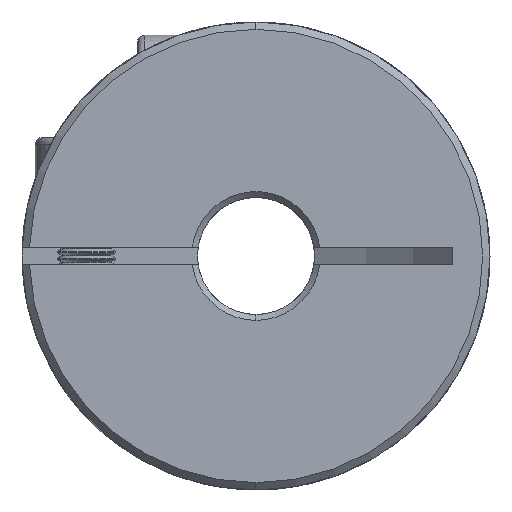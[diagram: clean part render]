
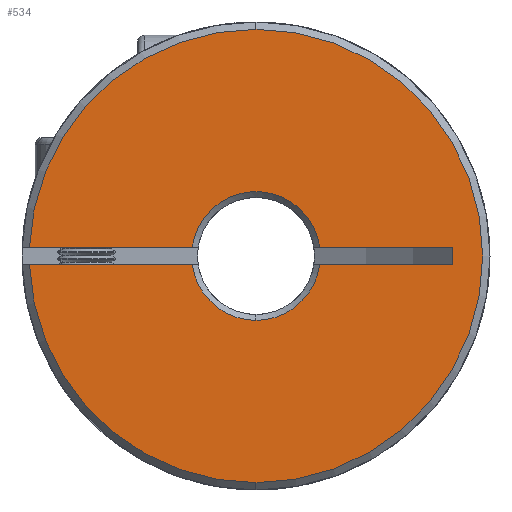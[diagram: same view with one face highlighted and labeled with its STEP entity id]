
A CAD part, front view. The second image highlights one B-rep face of the part: STEP entity #534.
In plain terms, the highlighted planar face has unit normal (0, -1, 0).
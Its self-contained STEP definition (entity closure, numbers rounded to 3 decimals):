
#71 = VERTEX_POINT ( 'NONE', #6212 ) ;
#272 = DIRECTION ( 'NONE',  ( 0., 1., 0. ) ) ;
#280 = VERTEX_POINT ( 'NONE', #2039 ) ;
#534 = ADVANCED_FACE ( 'NONE', ( #1481 ), #3240, .F. ) ;
#796 = EDGE_CURVE ( 'NONE', #10008, #8554, #7718, .T. ) ;
#824 = CARTESIAN_POINT ( 'NONE',  ( -50., 0., 0.6 ) ) ;
#926 = VERTEX_POINT ( 'NONE', #4681 ) ;
#1137 = LINE ( 'NONE', #3846, #9394 ) ;
#1174 = DIRECTION ( 'NONE',  ( 0., 1., 0. ) ) ;
#1200 = DIRECTION ( 'NONE',  ( 0., 0., 1. ) ) ;
#1307 = CARTESIAN_POINT ( 'NONE',  ( 0., 0., 0. ) ) ;
#1458 = VECTOR ( 'NONE', #6246, 1000. ) ;
#1478 = ORIENTED_EDGE ( 'NONE', *, *, #5255, .T. ) ;
#1481 = FACE_OUTER_BOUND ( 'NONE', #2538, .T. ) ;
#1548 = ORIENTED_EDGE ( 'NONE', *, *, #9373, .T. ) ;
#1741 = CARTESIAN_POINT ( 'NONE',  ( -15.488, 0., 0.6 ) ) ;
#1918 = DIRECTION ( 'NONE',  ( 0., 1., 0. ) ) ;
#1942 = EDGE_CURVE ( 'NONE', #8324, #10008, #8642, .T. ) ;
#2003 = CARTESIAN_POINT ( 'NONE',  ( 0., 0., 0. ) ) ;
#2036 = CARTESIAN_POINT ( 'NONE',  ( 0., 0., 0. ) ) ;
#2039 = CARTESIAN_POINT ( 'NONE',  ( -4.359, 0., -0.6 ) ) ;
#2052 = ORIENTED_EDGE ( 'NONE', *, *, #3862, .F. ) ;
#2391 = ORIENTED_EDGE ( 'NONE', *, *, #2551, .T. ) ;
#2473 = ORIENTED_EDGE ( 'NONE', *, *, #4414, .T. ) ;
#2538 = EDGE_LOOP ( 'NONE', ( #9291, #4733, #8670, #1478, #5568, #6289, #1548, #2473, #2052, #2391, #10294 ) ) ;
#2551 = EDGE_CURVE ( 'NONE', #926, #3586, #5659, .T. ) ;
#2631 = CARTESIAN_POINT ( 'NONE',  ( 0., 0., 0. ) ) ;
#2725 = CARTESIAN_POINT ( 'NONE',  ( -50., 0., 0.6 ) ) ;
#2984 = CARTESIAN_POINT ( 'NONE',  ( 13.436, 0., 0.6 ) ) ;
#3052 = DIRECTION ( 'NONE',  ( 0., -1., 0. ) ) ;
#3240 = PLANE ( 'NONE',  #6657 ) ;
#3586 = VERTEX_POINT ( 'NONE', #5062 ) ;
#3606 = CARTESIAN_POINT ( 'NONE',  ( 0., 0., 0. ) ) ;
#3715 = VECTOR ( 'NONE', #9503, 1000. ) ;
#3781 = CARTESIAN_POINT ( 'NONE',  ( 0., 0., 0. ) ) ;
#3798 = AXIS2_PLACEMENT_3D ( 'NONE', #2036, #8213, #1200 ) ;
#3846 = CARTESIAN_POINT ( 'NONE',  ( -50., 0., -0.6 ) ) ;
#3862 = EDGE_CURVE ( 'NONE', #926, #4159, #1137, .T. ) ;
#3889 = VECTOR ( 'NONE', #4334, 1000. ) ;
#4092 = CARTESIAN_POINT ( 'NONE',  ( -50., 0., -0.6 ) ) ;
#4159 = VERTEX_POINT ( 'NONE', #5638 ) ;
#4208 = AXIS2_PLACEMENT_3D ( 'NONE', #2003, #272, #7120 ) ;
#4233 = DIRECTION ( 'NONE',  ( 0., 1., 0. ) ) ;
#4334 = DIRECTION ( 'NONE',  ( 1., 0., 0. ) ) ;
#4414 = EDGE_CURVE ( 'NONE', #10462, #4159, #5097, .T. ) ;
#4681 = CARTESIAN_POINT ( 'NONE',  ( 4.359, 0., -0.6 ) ) ;
#4733 = ORIENTED_EDGE ( 'NONE', *, *, #8781, .T. ) ;
#4766 = CARTESIAN_POINT ( 'NONE',  ( 4.359, 0., 0.6 ) ) ;
#4781 = CARTESIAN_POINT ( 'NONE',  ( -4.359, 0., 0.6 ) ) ;
#4796 = CIRCLE ( 'NONE', #3798, 15.5 ) ;
#5062 = CARTESIAN_POINT ( 'NONE',  ( 0., 0., -4.4 ) ) ;
#5069 = CARTESIAN_POINT ( 'NONE',  ( -50., 0., -18.413 ) ) ;
#5097 = LINE ( 'NONE', #6841, #3715 ) ;
#5147 = DIRECTION ( 'NONE',  ( 0., 0., 1. ) ) ;
#5255 = EDGE_CURVE ( 'NONE', #71, #8324, #4796, .T. ) ;
#5530 = CIRCLE ( 'NONE', #4208, 4.4 ) ;
#5568 = ORIENTED_EDGE ( 'NONE', *, *, #1942, .T. ) ;
#5638 = CARTESIAN_POINT ( 'NONE',  ( 13.436, 0., -0.6 ) ) ;
#5659 = CIRCLE ( 'NONE', #10078, 4.4 ) ;
#5721 = DIRECTION ( 'NONE',  ( 1., 0., 0. ) ) ;
#5742 = DIRECTION ( 'NONE',  ( 1., 0., 0. ) ) ;
#5990 = CARTESIAN_POINT ( 'NONE',  ( -15.488, 0., -0.6 ) ) ;
#6120 = AXIS2_PLACEMENT_3D ( 'NONE', #1307, #3052, #8203 ) ;
#6212 = CARTESIAN_POINT ( 'NONE',  ( 0., 0., 15.5 ) ) ;
#6246 = DIRECTION ( 'NONE',  ( 1., 0., 0. ) ) ;
#6289 = ORIENTED_EDGE ( 'NONE', *, *, #796, .T. ) ;
#6447 = DIRECTION ( 'NONE',  ( 0., 0., 1. ) ) ;
#6657 = AXIS2_PLACEMENT_3D ( 'NONE', #5069, #4233, #5147 ) ;
#6841 = CARTESIAN_POINT ( 'NONE',  ( 13.436, 0., -0.6 ) ) ;
#7120 = DIRECTION ( 'NONE',  ( 0., 0., 1. ) ) ;
#7143 = DIRECTION ( 'NONE',  ( 0., 0., 1. ) ) ;
#7718 = CIRCLE ( 'NONE', #9487, 4.4 ) ;
#7972 = AXIS2_PLACEMENT_3D ( 'NONE', #2631, #10625, #8710 ) ;
#8127 = VECTOR ( 'NONE', #5742, 1000. ) ;
#8145 = EDGE_CURVE ( 'NONE', #9212, #280, #10417, .T. ) ;
#8203 = DIRECTION ( 'NONE',  ( 0., 0., 1. ) ) ;
#8213 = DIRECTION ( 'NONE',  ( 0., -1., 0. ) ) ;
#8236 = CIRCLE ( 'NONE', #6120, 15.5 ) ;
#8324 = VERTEX_POINT ( 'NONE', #1741 ) ;
#8421 = VERTEX_POINT ( 'NONE', #9679 ) ;
#8554 = VERTEX_POINT ( 'NONE', #4766 ) ;
#8642 = LINE ( 'NONE', #824, #3889 ) ;
#8670 = ORIENTED_EDGE ( 'NONE', *, *, #10799, .T. ) ;
#8710 = DIRECTION ( 'NONE',  ( 0., 0., 1. ) ) ;
#8781 = EDGE_CURVE ( 'NONE', #9212, #8421, #9993, .T. ) ;
#9212 = VERTEX_POINT ( 'NONE', #5990 ) ;
#9291 = ORIENTED_EDGE ( 'NONE', *, *, #8145, .F. ) ;
#9373 = EDGE_CURVE ( 'NONE', #8554, #10462, #9445, .T. ) ;
#9394 = VECTOR ( 'NONE', #5721, 1000. ) ;
#9445 = LINE ( 'NONE', #2725, #1458 ) ;
#9487 = AXIS2_PLACEMENT_3D ( 'NONE', #3606, #1918, #7143 ) ;
#9503 = DIRECTION ( 'NONE',  ( 0., 0., -1. ) ) ;
#9679 = CARTESIAN_POINT ( 'NONE',  ( 0., 0., -15.5 ) ) ;
#9993 = CIRCLE ( 'NONE', #7972, 15.5 ) ;
#10008 = VERTEX_POINT ( 'NONE', #4781 ) ;
#10078 = AXIS2_PLACEMENT_3D ( 'NONE', #3781, #1174, #6447 ) ;
#10294 = ORIENTED_EDGE ( 'NONE', *, *, #10345, .T. ) ;
#10345 = EDGE_CURVE ( 'NONE', #3586, #280, #5530, .T. ) ;
#10417 = LINE ( 'NONE', #4092, #8127 ) ;
#10462 = VERTEX_POINT ( 'NONE', #2984 ) ;
#10625 = DIRECTION ( 'NONE',  ( 0., -1., 0. ) ) ;
#10799 = EDGE_CURVE ( 'NONE', #8421, #71, #8236, .T. ) ;
